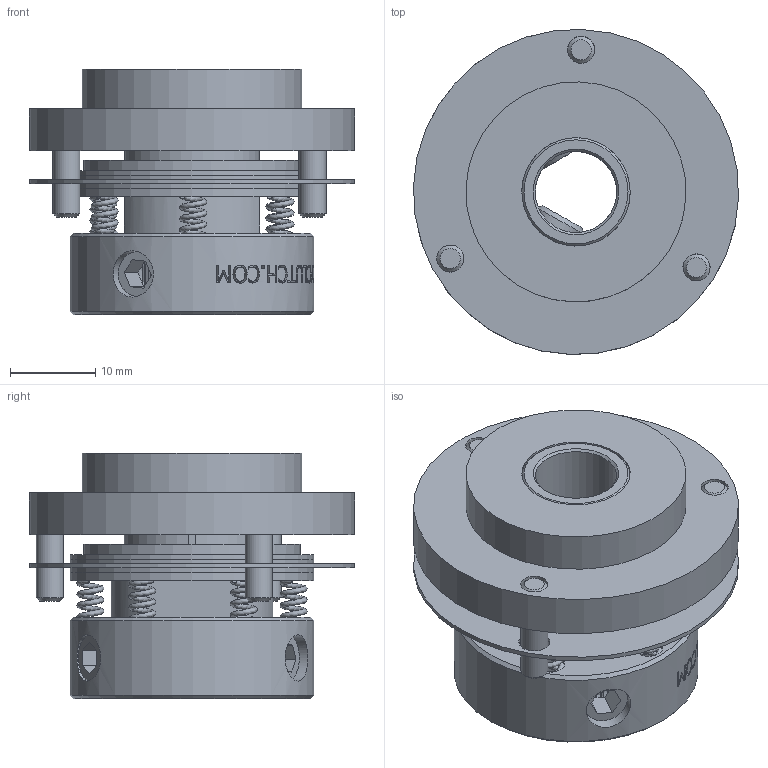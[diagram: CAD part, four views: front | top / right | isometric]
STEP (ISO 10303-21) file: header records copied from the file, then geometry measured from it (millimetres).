
FILE_DESCRIPTION((''),'2;1');
FILE_NAME('P:\Public\Organized 3D Clutch Assembly Files - Jessica\Slippers\Single Plate\Size 24\PFO24.stp','2013-01-31T09:59:40',('TodLob'),(''),'Autodesk Inventor 2011','Autodesk Inventor 2011','');
FILE_SCHEMA(('AUTOMOTIVE_DESIGN { 1 0 10303 214 1 1 1 1 }'));
Length unit declared in the file: inch
Products named in the file (13): PFO24; P2412; S2419; S2421; S2413; S2415; S2438; S2417-6-F; S2414F; P2409; P2423; Hexagon Socket Set Screw - Flat Point - Inch 1/4-28 UNF x 0.38; 6-8-4
Assembly tree (21 placements, depth 2):
  PFO24
    P2412
    S2419
    S2421  x2
    S2413
    S2415
    S2438
    S2417-6-F
    S2414F  x6
    P2409
    P2423  x3
    Hexagon Socket Set Screw - Flat Point - Inch 1/4-28 UNF x 0.38  x2
    6-8-4
Bounding box: 38.08 x 38.08 x 28.73 mm (x, y, z)
Volume: 15778.5 mm3; surface area: 16414.6 mm2
Topology: 21 solids, 21 shells, 571 faces, 1422 edges, 911 vertices
Faces by surface type: plane 374, bspline 106, cylinder 63, cone 28
Full cylindrical faces by diameter (mm): 3.175 x6, 3.251 x6, 3.658 x3, 5.41 x2, 6.35 x2, 9.525 x2, 12.7 x2, 15.9 x1, 19.05 x1, 19.126 x2, 20.625 x1, 25.4 x1, 25.781 x1, 28.575 x5, 38.1 x2
Entity records: 42377 total; most frequent: CARTESIAN_POINT 29903, ORIENTED_EDGE 2594, DIRECTION 2204, EDGE_CURVE 1297, VERTEX_POINT 859, AXIS2_PLACEMENT_3D 737, VECTOR 730, LINE 730
